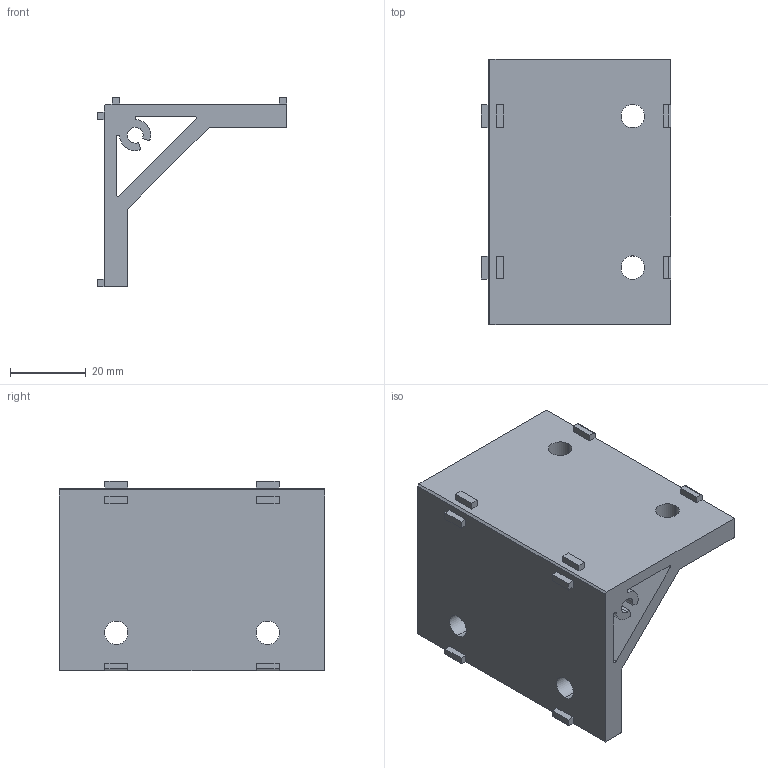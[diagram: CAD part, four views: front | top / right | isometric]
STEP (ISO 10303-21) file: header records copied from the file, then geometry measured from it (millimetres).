
FILE_DESCRIPTION (( 'STEP AP214' ), '1' );
FILE_NAME ('SMBD3-4080.STEP', '2019-11-21T06:19:21', ( '微软用户' ), ( '微软中国' ), 'SwSTEP 2.0', 'SolidWorks 2016', '' );
FILE_SCHEMA (( 'AUTOMOTIVE_DESIGN' ));
Length unit declared in the file: millimetre
Products named in the file (1): SMBD3-4080
Bounding box: 50 x 70 x 50 mm (x, y, z)
Volume: 41292.2 mm3; surface area: 20825.2 mm2
Topology: 1 solids, 1 shells, 78 faces, 216 edges, 144 vertices
Faces by surface type: plane 51, cylinder 27
Entity records: 2548 total; most frequent: CARTESIAN_POINT 439, ORIENTED_EDGE 432, DIRECTION 428, EDGE_CURVE 216, LINE 162, VECTOR 162, VERTEX_POINT 144, AXIS2_PLACEMENT_3D 133
